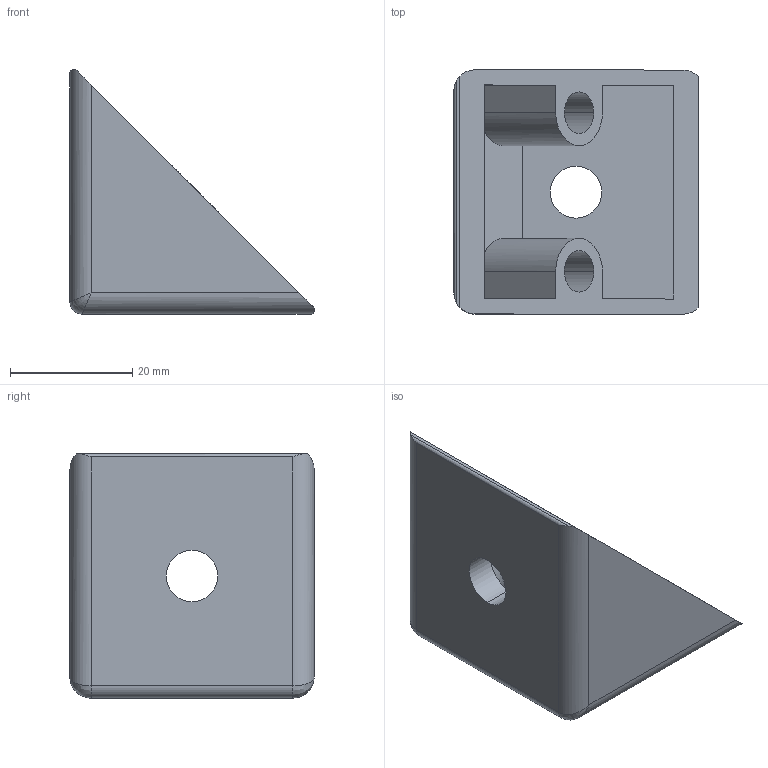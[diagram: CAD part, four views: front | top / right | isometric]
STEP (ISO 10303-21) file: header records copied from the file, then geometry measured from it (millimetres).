
FILE_DESCRIPTION (( 'STEP AP203' ), '1' );
FILE_NAME ('0108W4040.STEP', '2024-09-05T12:04:50', ( 'Windows-Benutzer' ), ( '' ), 'SwSTEP 2.0', 'SolidWorks 2024', '' );
FILE_SCHEMA (( 'CONFIG_CONTROL_DESIGN' ));
Length unit declared in the file: millimetre
Products named in the file (1): 0108W4040
Bounding box: 40 x 40 x 40 mm (x, y, z)
Volume: 18605.6 mm3; surface area: 9486.1 mm2
Topology: 1 solids, 1 shells, 39 faces, 98 edges, 62 vertices
Faces by surface type: plane 20, cylinder 17, bspline 2
Entity records: 1347 total; most frequent: CARTESIAN_POINT 364, ORIENTED_EDGE 192, DIRECTION 182, EDGE_CURVE 96, AXIS2_PLACEMENT_3D 64, VERTEX_POINT 62, VECTOR 54, LINE 54
